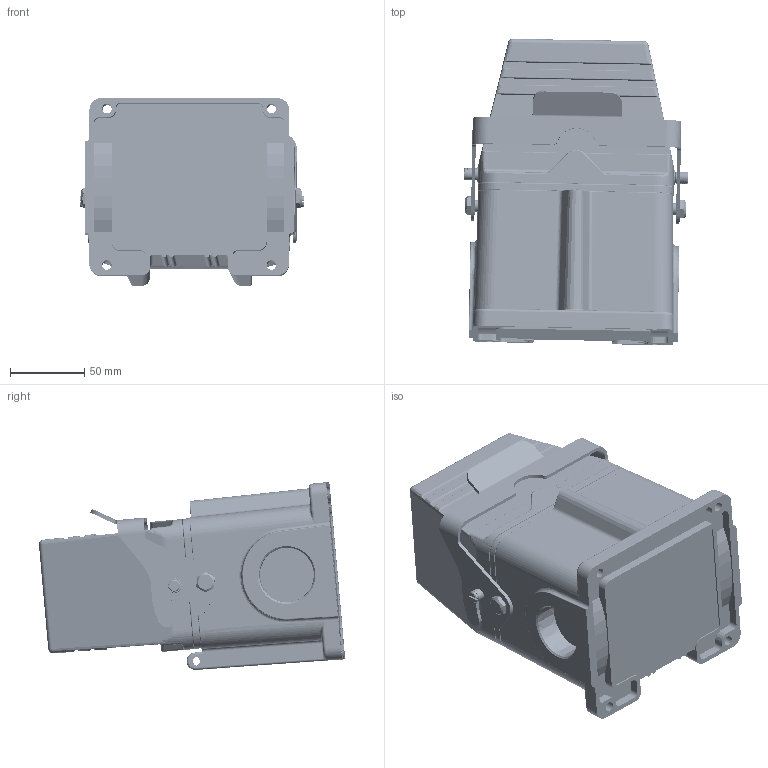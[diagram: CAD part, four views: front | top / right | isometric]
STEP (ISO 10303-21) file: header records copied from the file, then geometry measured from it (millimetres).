
FILE_DESCRIPTION (( 'STEP AP214' ), '1' );
FILE_NAME ('09148104232 HESH、48针、表面底座、顶出M32套件.STEP', '2024-05-07T01:01:13', ( 'L' ), ( '' ), 'SwSTEP 2.0', 'SolidWorks 2019', '' );
FILE_SCHEMA (( 'AUTOMOTIVE_DESIGN' ));
Length unit declared in the file: millimetre
Products named in the file (8): HESH-024-FD.stp.STEP; HESH-024-F.stp.STEP; 09148104232 HESH、48针、表面底座、顶出M32套件.STEP; H48B-SGR-M32.step.STEP; 09148104232 HESH、48针、表面底座、顶出M32套件; HESH-024-MD.stp.STEP; HESH-024-M.stp.STEP; H48B-TG-M32.step.STEP
Assembly tree (7 placements, depth 3):
  09148104232 HESH、48针、表面底座、顶出M32套件
    09148104232 HESH、48针、表面底座、顶出M32套件.STEP
      HESH-024-M.stp.STEP
      HESH-024-MD.stp.STEP
      HESH-024-F.stp.STEP
      HESH-024-FD.stp.STEP
      H48B-TG-M32.step.STEP
      H48B-SGR-M32.step.STEP
Bounding box: 151.6 x 206.56 x 126.64 mm (x, y, z)
Volume: 942975.7 mm3; surface area: 372819.2 mm2
Topology: 6 solids, 6 shells, 7825 faces, 20587 edges, 13137 vertices
Faces by surface type: plane 4154, cylinder 1853, cone 1075, bspline 535, sphere 108, torus 100
Entity records: 317591 total; most frequent: CARTESIAN_POINT 104571, ORIENTED_EDGE 40572, DIRECTION 35787, EDGE_CURVE 20286, VERTEX_POINT 13083, VECTOR 12331, LINE 12331, AXIS2_PLACEMENT_3D 11728
